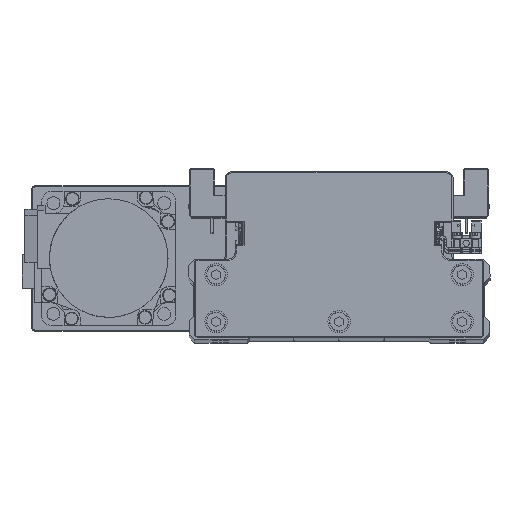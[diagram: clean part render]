
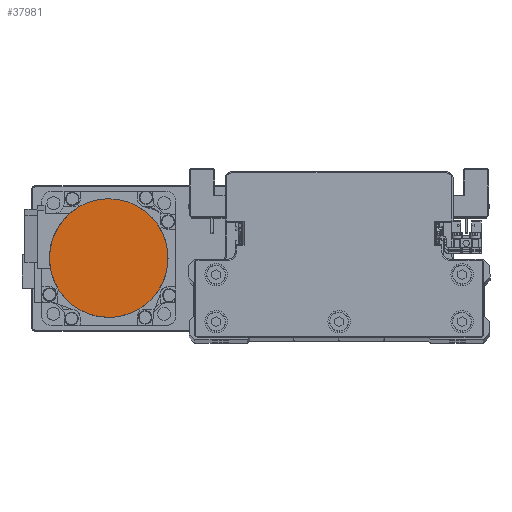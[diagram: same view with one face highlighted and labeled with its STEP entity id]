
A CAD part, top view. The second image highlights one B-rep face of the part: STEP entity #37981.
In plain terms, the highlighted planar face has unit normal (0, 0, 1) as drawn and (0, 0, -1) by its records, which use the part's own axes.
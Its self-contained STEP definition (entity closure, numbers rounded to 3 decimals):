
#1625 = CARTESIAN_POINT ( 'NONE',  ( -25.147, -8.539, -109.7 ) ) ;
#1844 = CARTESIAN_POINT ( 'NONE',  ( 1.734, -26.5, -109.7 ) ) ;
#2041 = CARTESIAN_POINT ( 'NONE',  ( 25.652, -6.871, -109.7 ) ) ;
#2307 = CARTESIAN_POINT ( 'NONE',  ( 16.165, 21.07, -109.7 ) ) ;
#2510 = CARTESIAN_POINT ( 'NONE',  ( -16.165, 21.07, -109.7 ) ) ;
#4718 = CARTESIAN_POINT ( 'NONE',  ( -26.5, -1.734, -109.7 ) ) ;
#4929 = CARTESIAN_POINT ( 'NONE',  ( -6.871, -25.652, -109.7 ) ) ;
#5138 = CARTESIAN_POINT ( 'NONE',  ( 22.998, -13.28, -109.7 ) ) ;
#5401 = CARTESIAN_POINT ( 'NONE',  ( 21.07, 16.165, -109.7 ) ) ;
#5605 = CARTESIAN_POINT ( 'NONE',  ( -8.539, 25.147, -109.7 ) ) ;
#5808 = CARTESIAN_POINT ( 'NONE',  ( -26.5, 0., -109.7 ) ) ;
#6110 = CARTESIAN_POINT ( 'NONE',  ( -26.5, 0., -109.7 ) ) ;
#7939 = VERTEX_POINT ( 'NONE', #6110 ) ;
#8030 = CARTESIAN_POINT ( 'NONE',  ( -13.28, -22.998, -109.7 ) ) ;
#8240 = CARTESIAN_POINT ( 'NONE',  ( 17.512, -19.965, -109.7 ) ) ;
#8512 = CARTESIAN_POINT ( 'NONE',  ( 25.147, 8.539, -109.7 ) ) ;
#8705 = CARTESIAN_POINT ( 'NONE',  ( -1.734, 26.5, -109.7 ) ) ;
#8918 = CARTESIAN_POINT ( 'NONE',  ( -25.652, 6.871, -109.7 ) ) ;
#11152 = CARTESIAN_POINT ( 'NONE',  ( -19.965, -17.512, -109.7 ) ) ;
#11347 = CARTESIAN_POINT ( 'NONE',  ( 11.744, -23.819, -109.7 ) ) ;
#11616 = CARTESIAN_POINT ( 'NONE',  ( 26.5, 1.734, -109.7 ) ) ;
#11824 = CARTESIAN_POINT ( 'NONE',  ( 6.871, 25.652, -109.7 ) ) ;
#12017 = CARTESIAN_POINT ( 'NONE',  ( -22.998, 13.28, -109.7 ) ) ;
#12071 = DIRECTION ( 'NONE',  ( 0., 0., 1. ) ) ;
#12223 = ORIENTED_EDGE ( 'NONE', *, *, #40054, .F. ) ;
#13502 = EDGE_LOOP ( 'NONE', ( #17813, #12223 ) ) ;
#14235 = CARTESIAN_POINT ( 'NONE',  ( -23.819, -11.744, -109.7 ) ) ;
#14461 = CARTESIAN_POINT ( 'NONE',  ( 3.469, -26.329, -109.7 ) ) ;
#14658 = CARTESIAN_POINT ( 'NONE',  ( 26.329, -3.469, -109.7 ) ) ;
#14927 = CARTESIAN_POINT ( 'NONE',  ( 13.28, 22.998, -109.7 ) ) ;
#15005 = VERTEX_POINT ( 'NONE', #25021 ) ;
#15136 = CARTESIAN_POINT ( 'NONE',  ( -17.512, 19.965, -109.7 ) ) ;
#15189 = FACE_OUTER_BOUND ( 'NONE', #13502, .T. ) ;
#17347 = CARTESIAN_POINT ( 'NONE',  ( -26.329, -3.469, -109.7 ) ) ;
#17562 = CARTESIAN_POINT ( 'NONE',  ( -3.469, -26.329, -109.7 ) ) ;
#17780 = CARTESIAN_POINT ( 'NONE',  ( 23.819, -11.744, -109.7 ) ) ;
#17813 = ORIENTED_EDGE ( 'NONE', *, *, #33789, .F. ) ;
#18036 = CARTESIAN_POINT ( 'NONE',  ( 19.965, 17.512, -109.7 ) ) ;
#18238 = CARTESIAN_POINT ( 'NONE',  ( -11.744, 23.819, -109.7 ) ) ;
#20685 = CARTESIAN_POINT ( 'NONE',  ( -11.744, -23.819, -109.7 ) ) ;
#20896 = CARTESIAN_POINT ( 'NONE',  ( 19.965, -17.512, -109.7 ) ) ;
#21166 = CARTESIAN_POINT ( 'NONE',  ( 23.819, 11.744, -109.7 ) ) ;
#21363 = CARTESIAN_POINT ( 'NONE',  ( -3.469, 26.329, -109.7 ) ) ;
#21567 = CARTESIAN_POINT ( 'NONE',  ( -26.329, 3.469, -109.7 ) ) ;
#23788 = CARTESIAN_POINT ( 'NONE',  ( -17.512, -19.965, -109.7 ) ) ;
#23993 = CARTESIAN_POINT ( 'NONE',  ( 13.28, -22.998, -109.7 ) ) ;
#24265 = CARTESIAN_POINT ( 'NONE',  ( 26.329, 3.469, -109.7 ) ) ;
#24466 = CARTESIAN_POINT ( 'NONE',  ( 3.469, 26.329, -109.7 ) ) ;
#24667 = CARTESIAN_POINT ( 'NONE',  ( -23.819, 11.744, -109.7 ) ) ;
#24718 = DIRECTION ( 'NONE',  ( 1., 0., 0. ) ) ;
#25021 = CARTESIAN_POINT ( 'NONE',  ( 26.5, 0., -109.7 ) ) ;
#26883 = CARTESIAN_POINT ( 'NONE',  ( -22.998, -13.28, -109.7 ) ) ;
#27093 = CARTESIAN_POINT ( 'NONE',  ( 6.871, -25.652, -109.7 ) ) ;
#27293 = CARTESIAN_POINT ( 'NONE',  ( 26.5, -1.734, -109.7 ) ) ;
#27553 = CARTESIAN_POINT ( 'NONE',  ( 11.744, 23.819, -109.7 ) ) ;
#27760 = CARTESIAN_POINT ( 'NONE',  ( -19.965, 17.512, -109.7 ) ) ;
#27810 = PLANE ( 'NONE',  #38158 ) ;
#29987 = CARTESIAN_POINT ( 'NONE',  ( -25.652, -6.871, -109.7 ) ) ;
#30188 = CARTESIAN_POINT ( 'NONE',  ( -1.734, -26.5, -109.7 ) ) ;
#30398 = CARTESIAN_POINT ( 'NONE',  ( 25.147, -8.539, -109.7 ) ) ;
#30661 = CARTESIAN_POINT ( 'NONE',  ( 17.512, 19.965, -109.7 ) ) ;
#30869 = CARTESIAN_POINT ( 'NONE',  ( -13.28, 22.998, -109.7 ) ) ;
#32800 = B_SPLINE_CURVE_WITH_KNOTS ( 'NONE', 3,
 ( #33086, #4718, #17347, #29987, #1625, #14235, #26883, #39519, #11152, #23788, #36418, #8030, #20685, #33296, #4929, #17562, #30188, #1844, #14461, #27093, #39724, #11347, #23993, #36625, #8240, #20896, #33501, #5138, #17780, #30398, #2041, #14658, #27293, #39931 ),
 .UNSPECIFIED., .F., .F.,
 ( 4, 2, 2, 2, 2, 2, 2, 2, 2, 2, 2, 2, 2, 2, 2, 2, 4 ),
 ( 0., 0.063, 0.125, 0.188, 0.25, 0.312, 0.375, 0.437, 0.5, 0.562, 0.625, 0.687, 0.75, 0.813, 0.875, 0.938, 1. ),
 .UNSPECIFIED. ) ;
#33086 = CARTESIAN_POINT ( 'NONE',  ( -26.5, 0., -109.7 ) ) ;
#33296 = CARTESIAN_POINT ( 'NONE',  ( -8.539, -25.147, -109.7 ) ) ;
#33501 = CARTESIAN_POINT ( 'NONE',  ( 21.07, -16.165, -109.7 ) ) ;
#33774 = CARTESIAN_POINT ( 'NONE',  ( 22.998, 13.28, -109.7 ) ) ;
#33789 = EDGE_CURVE ( 'NONE', #15005, #7939, #40719, .T. ) ;
#33982 = CARTESIAN_POINT ( 'NONE',  ( -6.871, 25.652, -109.7 ) ) ;
#34178 = CARTESIAN_POINT ( 'NONE',  ( -26.5, 1.734, -109.7 ) ) ;
#36418 = CARTESIAN_POINT ( 'NONE',  ( -16.165, -21.07, -109.7 ) ) ;
#36625 = CARTESIAN_POINT ( 'NONE',  ( 16.165, -21.07, -109.7 ) ) ;
#36893 = CARTESIAN_POINT ( 'NONE',  ( 25.652, 6.871, -109.7 ) ) ;
#37087 = CARTESIAN_POINT ( 'NONE',  ( 1.734, 26.5, -109.7 ) ) ;
#37292 = CARTESIAN_POINT ( 'NONE',  ( -25.147, 8.539, -109.7 ) ) ;
#37981 = ADVANCED_FACE ( 'NONE', ( #15189 ), #27810, .F. ) ;
#38158 = AXIS2_PLACEMENT_3D ( 'NONE', #40441, #12071, #24718 ) ;
#39519 = CARTESIAN_POINT ( 'NONE',  ( -21.07, -16.165, -109.7 ) ) ;
#39724 = CARTESIAN_POINT ( 'NONE',  ( 8.539, -25.147, -109.7 ) ) ;
#39931 = CARTESIAN_POINT ( 'NONE',  ( 26.5, 0., -109.7 ) ) ;
#39992 = CARTESIAN_POINT ( 'NONE',  ( 26.5, 0., -109.7 ) ) ;
#40054 = EDGE_CURVE ( 'NONE', #7939, #15005, #32800, .T. ) ;
#40194 = CARTESIAN_POINT ( 'NONE',  ( 8.539, 25.147, -109.7 ) ) ;
#40389 = CARTESIAN_POINT ( 'NONE',  ( -21.07, 16.165, -109.7 ) ) ;
#40441 = CARTESIAN_POINT ( 'NONE',  ( 0., 0., -109.7 ) ) ;
#40719 = B_SPLINE_CURVE_WITH_KNOTS ( 'NONE', 3,
 ( #39992, #11616, #24265, #36893, #8512, #21166, #33774, #5401, #18036, #30661, #2307, #14927, #27553, #40194, #11824, #24466, #37087, #8705, #21363, #33982, #5605, #18238, #30869, #2510, #15136, #27760, #40389, #12017, #24667, #37292, #8918, #21567, #34178, #5808 ),
 .UNSPECIFIED., .F., .F.,
 ( 4, 2, 2, 2, 2, 2, 2, 2, 2, 2, 2, 2, 2, 2, 2, 2, 4 ),
 ( 0., 0.062, 0.125, 0.187, 0.25, 0.312, 0.375, 0.437, 0.5, 0.562, 0.625, 0.687, 0.75, 0.813, 0.875, 0.938, 1. ),
 .UNSPECIFIED. ) ;
